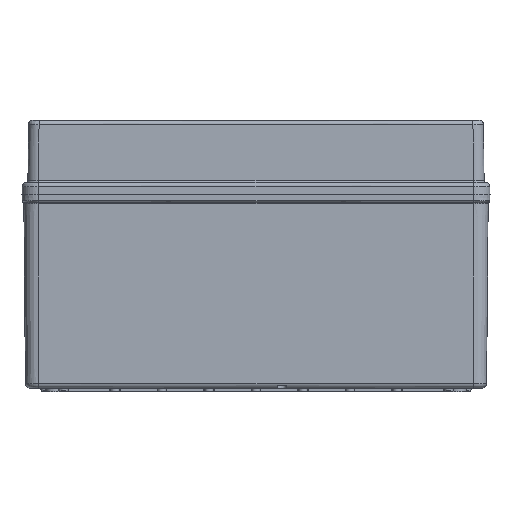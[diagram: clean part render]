
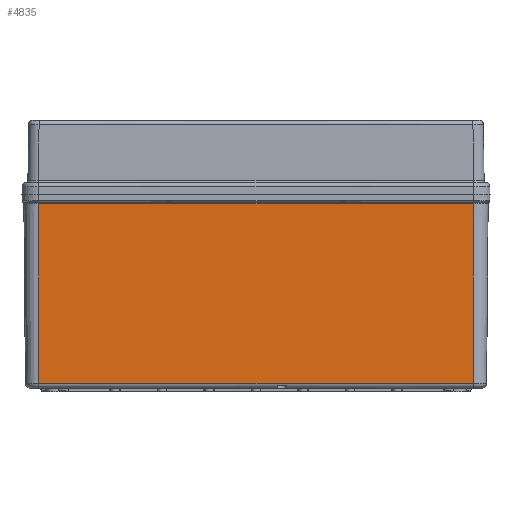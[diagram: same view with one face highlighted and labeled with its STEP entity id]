
A CAD part, front view. The second image highlights one B-rep face of the part: STEP entity #4835.
In plain terms, the highlighted planar face has unit normal (0, -1, -0.009).
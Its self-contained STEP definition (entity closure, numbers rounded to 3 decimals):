
#1754=B_SPLINE_CURVE_WITH_KNOTS('',3,(#59516,#59517,#59518,#59519,#59520,
#59521,#59522,#59523,#59524,#59525,#59526,#59527,#59528),.UNSPECIFIED.,
 .F.,.F.,(4,3,3,3,4),(0.,0.017,0.084,0.352,
1.),.UNSPECIFIED.);
#4835=ADVANCED_FACE('',(#7150),#5826,.T.);
#5826=PLANE('',#30717);
#7150=FACE_OUTER_BOUND('',#8951,.T.);
#8951=EDGE_LOOP('',(#14974,#14975,#14976,#14977));
#14974=ORIENTED_EDGE('',*,*,#22704,.T.);
#14975=ORIENTED_EDGE('',*,*,#23639,.F.);
#14976=ORIENTED_EDGE('',*,*,#23276,.F.);
#14977=ORIENTED_EDGE('',*,*,#23597,.F.);
#19014=VERTEX_POINT('',#55522);
#19276=VERTEX_POINT('',#56417);
#19413=VERTEX_POINT('',#57028);
#19683=VERTEX_POINT('',#57995);
#22704=EDGE_CURVE('',#19014,#19276,#25559,.T.);
#23276=EDGE_CURVE('',#19413,#19683,#25871,.T.);
#23597=EDGE_CURVE('',#19014,#19413,#1754,.T.);
#23639=EDGE_CURVE('',#19683,#19276,#26053,.T.);
#25559=LINE('',#56418,#27630);
#25871=LINE('',#57994,#27942);
#26053=LINE('',#59650,#28124);
#27630=VECTOR('',#35228,1.);
#27942=VECTOR('',#36396,1.);
#28124=VECTOR('',#37142,1.);
#30717=AXIS2_PLACEMENT_3D('',#59652,#37145,#37146);
#35228=DIRECTION('',(0.,0.009,-1.));
#36396=DIRECTION('',(0.,0.009,-1.));
#37142=DIRECTION('',(-1.,0.,0.));
#37145=DIRECTION('',(0.,-1.,-0.009));
#37146=DIRECTION('',(1.,0.,0.));
#55522=CARTESIAN_POINT('',(-143.3,-192.989,-6.004));
#56417=CARTESIAN_POINT('',(-143.3,-191.955,-124.526));
#56418=CARTESIAN_POINT('',(-143.3,-192.989,-6.088));
#57028=CARTESIAN_POINT('',(143.3,-192.989,-6.004));
#57994=CARTESIAN_POINT('',(143.3,-192.989,-6.088));
#57995=CARTESIAN_POINT('',(143.3,-191.955,-124.526));
#59516=CARTESIAN_POINT('',(-143.3,-192.989,-6.004));
#59517=CARTESIAN_POINT('',(-141.7,-192.989,-6.004));
#59518=CARTESIAN_POINT('',(-140.1,-192.989,-6.004));
#59519=CARTESIAN_POINT('',(-138.5,-192.989,-6.004));
#59520=CARTESIAN_POINT('',(-132.1,-192.989,-6.004));
#59521=CARTESIAN_POINT('',(-125.7,-192.989,-6.004));
#59522=CARTESIAN_POINT('',(-119.3,-192.989,-6.004));
#59523=CARTESIAN_POINT('',(-93.7,-192.989,-6.004));
#59524=CARTESIAN_POINT('',(-68.1,-192.989,-6.004));
#59525=CARTESIAN_POINT('',(-42.5,-192.989,-6.004));
#59526=CARTESIAN_POINT('',(19.433,-192.989,-6.004));
#59527=CARTESIAN_POINT('',(81.367,-192.989,-6.004));
#59528=CARTESIAN_POINT('',(143.3,-192.989,-6.004));
#59650=CARTESIAN_POINT('',(0.,-191.955,-124.526));
#59652=CARTESIAN_POINT('',(0.,-192.472,-65.267));
